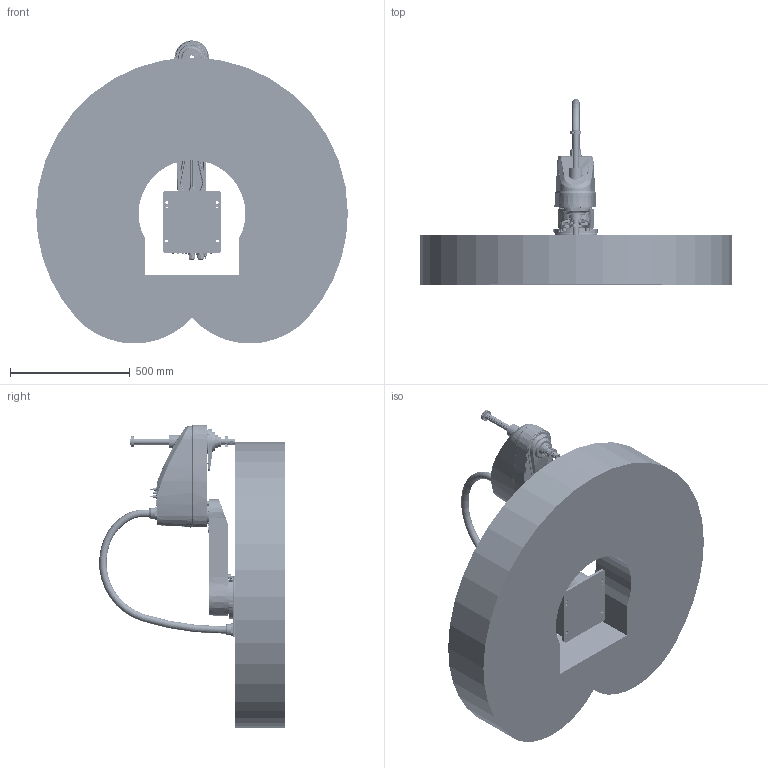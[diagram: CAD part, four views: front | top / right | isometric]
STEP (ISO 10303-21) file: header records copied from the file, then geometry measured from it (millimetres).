
FILE_DESCRIPTION (( 'STEP AP203' ), '1' );
FILE_NAME ('Python650-B10勤俋耀倰.STEP', '2025-01-13T08:06:29', ( '' ), ( '' ), 'SwSTEP 2.0', 'SolidWorks 2021', '' );
FILE_SCHEMA (( 'CONFIG_CONTROL_DESIGN' ));
Length unit declared in the file: millimetre
Products named in the file (6): 复件 小臂部分^Python650-B10对外模型; 复件 Python650-B10E工作空间^Python650-B10对外模型; 复件 大臂部分^Python650-B10对外模型; 复件 底座^Python650-B10对外模型; Python650-B10勤俋耀倰; 复件 线缆^Python650-B10对外模型
Assembly tree (5 placements, depth 2):
  Python650-B10勤俋耀倰
    复件 底座^Python650-B10对外模型
    复件 大臂部分^Python650-B10对外模型
    复件 小臂部分^Python650-B10对外模型
    复件 线缆^Python650-B10对外模型
    复件 Python650-B10E工作空间^Python650-B10对外模型
Bounding box: 1300 x 774.04 x 1263.85 mm (x, y, z)
Volume: 228291196.6 mm3; surface area: 5708185 mm2
Topology: 127 solids, 222 shells, 8156 faces, 19382 edges, 11890 vertices
Faces by surface type: cylinder 2971, plane 2685, cone 958, torus 765, bspline 614, sphere 163
Entity records: 289047 total; most frequent: CARTESIAN_POINT 104845, DIRECTION 38438, ORIENTED_EDGE 37977, EDGE_CURVE 19061, AXIS2_PLACEMENT_3D 15883, VERTEX_POINT 11889, EDGE_LOOP 9407, CIRCLE 8332
